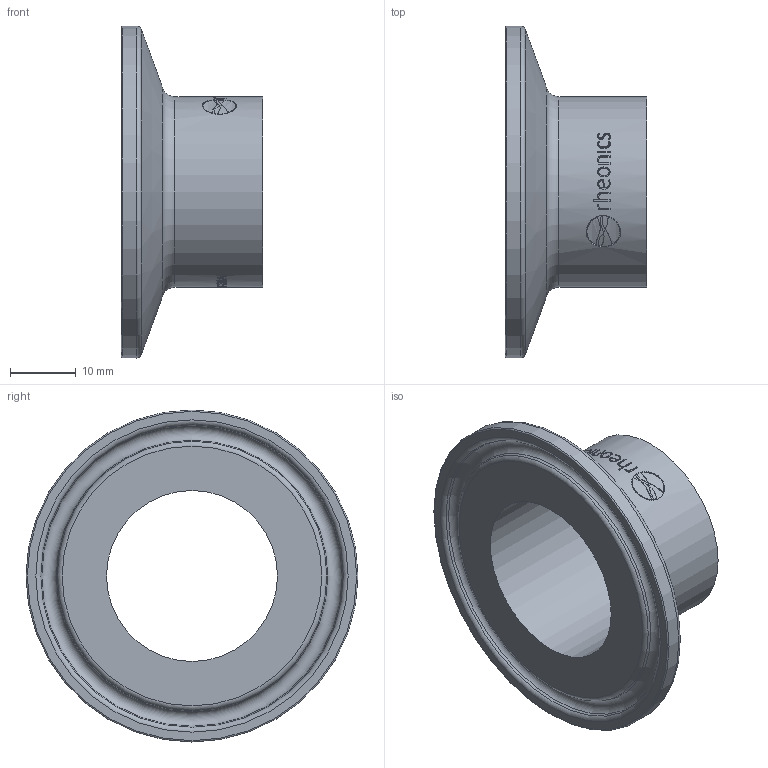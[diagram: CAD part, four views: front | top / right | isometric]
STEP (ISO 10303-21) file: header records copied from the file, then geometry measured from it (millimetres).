
FILE_DESCRIPTION(/* description */ ('Unknown'),/* implementation_level */ '2;1');
FILE_NAME(/* name */ 'WFT-15T-26A',/* time_stamp */ '2024-06-26T16:17:25-05:00',/* author */ ('Unknown'),/* organization */ ('Unknown'),/* preprocessor_version */ 'ST-DEVELOPER v16.7',/* originating_system */ 'Solid Edge',/* authorisation */ 'Unknown');
FILE_SCHEMA (('AUTOMOTIVE_DESIGN {1 0 10303 214 3 1 1}'));
Length unit declared in the file: millimetre
Products named in the file (1): WFT-15T-26A-Laser_Marking
Bounding box: 21.5 x 50.5 x 50.5 mm (x, y, z)
Volume: 8543.2 mm3; surface area: 6737.8 mm2
Topology: 1 solids, 1 shells, 260 faces, 664 edges, 440 vertices
Faces by surface type: bspline 109, plane 101, cylinder 41, torus 6, cone 3
Full cylindrical faces by diameter (mm): 26 x1, 29 x1, 50.5 x1
Entity records: 14650 total; most frequent: CARTESIAN_POINT 7258, ORIENTED_EDGE 1298, DIRECTION 821, EDGE_CURVE 649, VERTEX_POINT 439, EDGE_LOOP 310, FACE_BOUND 310, AXIS2_PLACEMENT_3D 274
